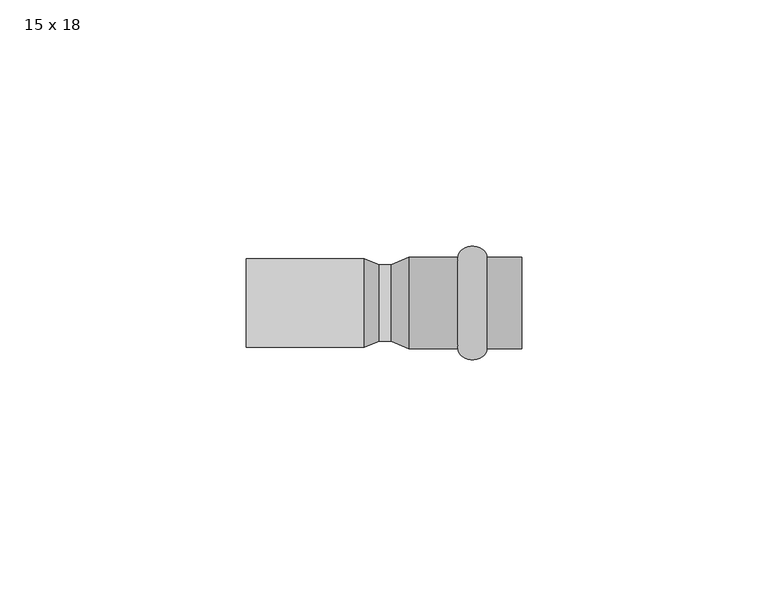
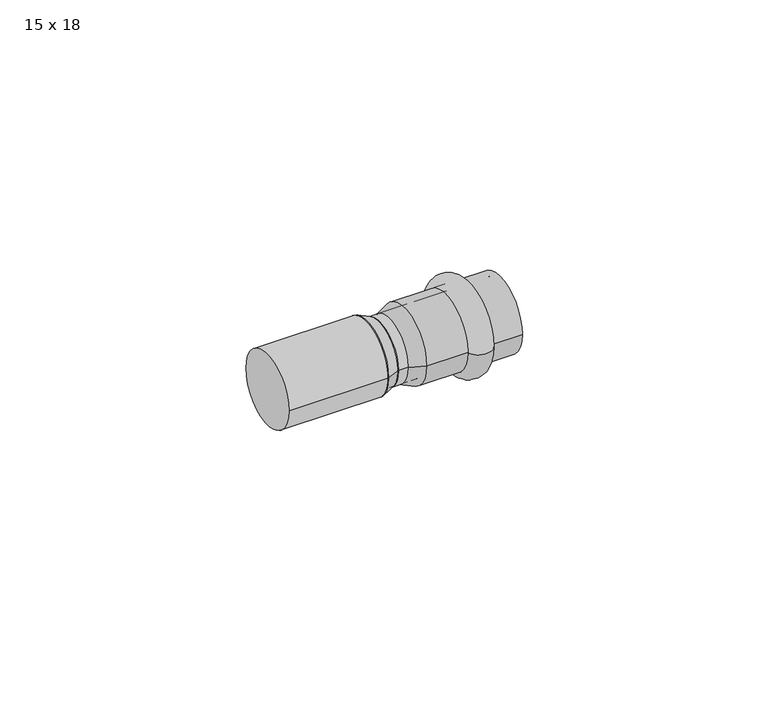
"""IFC4 building model written with IfcOpenShell, lengths in millimetres: pipe fitting geometry, РЕХАУ_Пресс Вставка переходная : 15 x 18."""

from ifc_helpers import new_model, si_unit, point, frame, origin, origin_2d, place, context, project, spatial, polyline, circle_curve, ellipse_curve, trimmed, segment, composite_curve, outline, extrude, source, transform, mapped, element, save
from ifc_brep_helpers import plane_surface, cylinder_surface, revolved_surface, advanced_brep


def pipe_fitting_15_x_18_3aa9f71b(model_context):
    return source(origin(), model_context, "Body", "SolidModel", [
        advanced_brep(
        [(48.9, 9.25, 0.0), (48.9, -9.25, 0.0), (43.0, -9.25, 0.0), (43.0, 9.25, 0.0)],
        [
            (0, 1, circle_curve(frame((48.9, 0.0, 0.0), z_axis=(1.0, 0.0, 0.0), x_axis=(0.0, -1.0, 0.0)), 9.25)),
            (1, 2),
            (2, 3, circle_curve(frame((43.0, 0.0, 0.0), z_axis=(-1.0, 0.0, 0.0), x_axis=(0.0, -1.0, 0.0)), 9.25)),
            (3, 0),
            (1, 0, circle_curve(frame((48.9, 0.0, 0.0), z_axis=(1.0, 0.0, 0.0), x_axis=(0.0, -1.0, 0.0)), 9.25)),
            (3, 2, circle_curve(frame((43.0, 0.0, 0.0), z_axis=(-1.0, 0.0, 0.0), x_axis=(0.0, -1.0, 0.0)), 9.25)),
            (2, 1, ellipse_curve(frame((45.95, -9.25, 0.0), z_axis=(0.0, 0.0, 1.0), x_axis=(1.0, 0.0, 0.0)), 2.95, 2.3)),
            (0, 3, ellipse_curve(frame((45.95, 9.25, 0.0), z_axis=(0.0, 0.0, 1.0), x_axis=(1.0, 0.0, 0.0)), 2.95, 2.3)),
        ],
        [
            revolved_surface(polyline([(43.0, -9.25, 0.0), (48.9, -9.25, 0.0)]), (30.0, 0.0, 0.0), (-1.0, 0.0, 0.0)),
            revolved_surface(trimmed(ellipse_curve(frame((45.95, -9.25, 0.0), z_axis=(0.0, 0.0, -1.0), x_axis=(1.0, 0.0, 0.0)), 2.95, 2.3), [point((48.9, -9.25, 0.0))], [point((43.0, -9.25, 0.0))], True, "CARTESIAN"), (30.0, 0.0, 0.0), (-1.0, 0.0, 0.0)),
        ],
        [
            (0, [[1, 2, 3, 4]]),
            (0, [[5, -4, 6, -2]]),
            (1, [[-3, 7, -1, 8]]),
            (1, [[-6, -8, -5, -7]]),
        ],
    ),
        advanced_brep(
        [(29.4662215, 7.75, 0.0), (29.4662215, -7.75, 0.0), (33.0, -9.25, 0.0), (33.0, 9.25, 0.0), (56.0, 7.75, 0.0), (56.0, -7.75, 0.0), (56.0, 9.25, 0.0), (56.0, -9.25, 0.0)],
        [
            (0, 1, circle_curve(frame((29.4662215, 0.0, 0.0), z_axis=(1.0, 0.0, 0.0), x_axis=(0.0, -1.0, 0.0)), 7.75)),
            (1, 2),
            (2, 3, circle_curve(frame((33.0, 0.0, 0.0), z_axis=(-1.0, 0.0, 0.0), x_axis=(0.0, -1.0, 0.0)), 9.25)),
            (3, 0),
            (1, 0, circle_curve(frame((29.4662215, 0.0, 0.0), z_axis=(1.0, 0.0, 0.0), x_axis=(0.0, -1.0, 0.0)), 7.75)),
            (3, 2, circle_curve(frame((33.0, 0.0, 0.0), z_axis=(-1.0, 0.0, 0.0), x_axis=(0.0, -1.0, 0.0)), 9.25)),
            (4, 5, circle_curve(frame((56.0, 0.0, 0.0), z_axis=(1.0, 0.0, 0.0), x_axis=(0.0, -1.0, 0.0)), 7.75)),
            (5, 1),
            (0, 4),
            (5, 4, circle_curve(frame((56.0, 0.0, 0.0), z_axis=(1.0, 0.0, 0.0), x_axis=(0.0, -1.0, 0.0)), 7.75)),
            (6, 7, circle_curve(frame((56.0, 0.0, 0.0), z_axis=(1.0, 0.0, 0.0), x_axis=(0.0, -1.0, 0.0)), 9.25)),
            (7, 5),
            (4, 6),
            (7, 6, circle_curve(frame((56.0, 0.0, 0.0), z_axis=(1.0, 0.0, 0.0), x_axis=(0.0, -1.0, 0.0)), 9.25)),
            (2, 7),
            (6, 3),
        ],
        [
            revolved_surface(polyline([(33.0, -9.25, 0.0), (29.4662215, -7.75, 0.0)]), (30.0, 0.0, 0.0), (-1.0, 0.0, 0.0)),
            revolved_surface(polyline([(29.4662215, -7.75, 0.0), (56.0, -7.75, 0.0)]), (30.0, 0.0, 0.0), (-1.0, 0.0, 0.0)),
            plane_surface(frame((56.0, 0.0, 0.0), z_axis=(1.0, 0.0, 0.0), x_axis=(0.0, -1.0, 0.0))),
            cylinder_surface(frame((30.0, 0.0, 0.0), z_axis=(-1.0, 0.0, 0.0), x_axis=(0.0, -1.0, 0.0)), 9.25),
        ],
        [
            (0, [[1, 2, 3, 4]]),
            (0, [[5, -4, 6, -2]]),
            (1, [[7, 8, -1, 9]]),
            (1, [[10, -9, -5, -8]]),
            (2, [[11, 12, -7, 13]]),
            (2, [[14, -13, -10, -12]]),
            (3, [[-3, 15, -11, 16]]),
            (3, [[-6, -16, -14, -15]]),
        ],
    ),
        extrude(outline(composite_curve([segment(trimmed(circle_curve(origin_2d(), 7.75), [point((-7.75, 0.0))], [point((7.75, 0.0))], False, "CARTESIAN"), True, "CONTINUOUS"), segment(trimmed(circle_curve(origin_2d(), 7.75), [point((7.75, 0.0))], [point((-7.75, 0.0))], False, "CARTESIAN"), True, "CONTINUOUS")], self_intersect=False)), frame((27.05, 0.0, 0.0), z_axis=(1.0, 0.0, 0.0), x_axis=(0.0, 1.0, 0.0)), (0.0, 0.0, 1.0), 5.95),
        advanced_brep(
        [(27.05, -7.75, 0.0), (27.05, 7.75, 0.0), (24.0, -9.0, 0.0), (24.0, 9.0, 0.0)],
        [
            (0, 1, circle_curve(frame((27.05, 0.0, 0.0), z_axis=(1.0, 0.0, 0.0), x_axis=(0.0, -1.0, 0.0)), 7.75)),
            (1, 0, circle_curve(frame((27.05, 0.0, 0.0), z_axis=(1.0, 0.0, 0.0), x_axis=(0.0, 1.0, 0.0)), 7.75)),
            (2, 3, circle_curve(frame((24.0, 0.0, 0.0), z_axis=(-1.0, 0.0, 0.0), x_axis=(0.0, 1.0, 0.0)), 9.0)),
            (3, 2, circle_curve(frame((24.0, 0.0, 0.0), z_axis=(-1.0, 0.0, 0.0), x_axis=(0.0, -1.0, 0.0)), 9.0)),
            (3, 1),
            (0, 2),
        ],
        [
            plane_surface(frame((27.05, 0.0, 0.0), z_axis=(1.0, 0.0, 0.0), x_axis=(0.0, 0.0, -1.0))),
            plane_surface(frame((24.0, 0.0, 0.0), z_axis=(-1.0, 0.0, 0.0), x_axis=(0.0, 0.0, -1.0))),
            revolved_surface(polyline([(27.05, -7.749999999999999, 0.0), (24.0, -9.0, 0.0)]), (45.96, 0.0, 0.0), (-1.0, 0.0, 0.0)),
            revolved_surface(polyline([(27.05, 7.749999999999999, 0.0), (24.0, 9.0, 0.0)]), (45.96, 0.0, 0.0), (-1.0, 0.0, 0.0)),
        ],
        [
            (0, [[1, 2]]),
            (1, [[3, 4]]),
            (2, [[-4, 5, -1, 6]]),
            (3, [[-3, -6, -2, -5]]),
        ],
    ),
        extrude(outline(composite_curve([segment(trimmed(circle_curve(origin_2d(), 9.0), [point((-9.0, 0.0))], [point((9.0, 0.0))], False, "CARTESIAN"), True, "CONTINUOUS"), segment(trimmed(circle_curve(origin_2d(), 9.0), [point((9.0, 0.0))], [point((-9.0, 0.0))], False, "CARTESIAN"), True, "CONTINUOUS")], self_intersect=False)), frame((0.0, 0.0, 0.0), z_axis=(1.0, 0.0, 0.0), x_axis=(0.0, 1.0, 0.0)), (0.0, 0.0, 1.0), 24.0),
    ])


if __name__ == "__main__":
    model = new_model("IFC4")
    model_context = context("Model", 3, world=origin())
    ifc_project = project(units=[si_unit("LENGTHUNIT", "METRE", prefix="MILLI")], contexts=[model_context])
    site = spatial("IfcSite", under=ifc_project)
    building = spatial("IfcBuilding", under=site)
    placement = place(None, origin())
    pipe_fitting_15_x_18_shape = pipe_fitting_15_x_18_3aa9f71b(model_context)
    element("IfcPipeFitting", 1, ObjectType="РЕХАУ_Пресс Вставка переходная : 15 x 18", at=placement, inside=building, context=model_context, shape_type="MappedRepresentation", body=[
        mapped(pipe_fitting_15_x_18_shape, transform((0.0, 0.0, 0.0), x_axis=(1.0, 0.0, 0.0), y_axis=(0.0, 1.0, 0.0), z_axis=(0.0, 0.0, 1.0))),
    ])
    save(model, "model.ifc")
